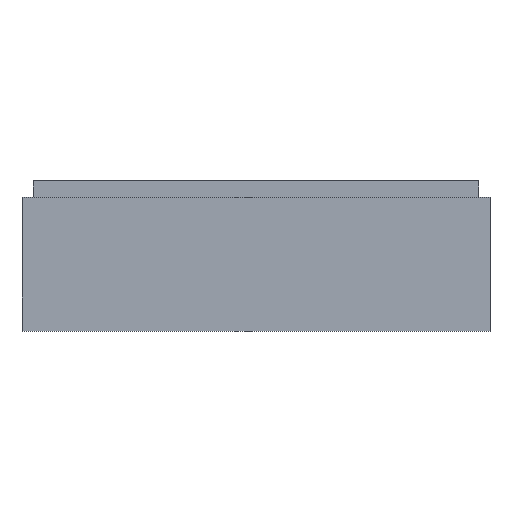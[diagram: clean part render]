
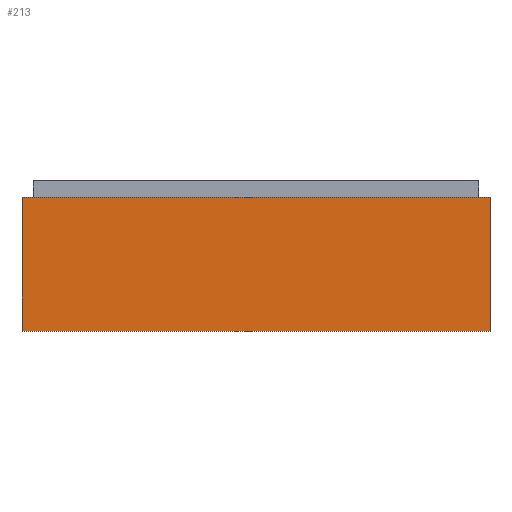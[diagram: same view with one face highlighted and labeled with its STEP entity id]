
A CAD part, top view. The second image highlights one B-rep face of the part: STEP entity #213.
In plain terms, the highlighted planar face has unit normal (0, 0, 1).
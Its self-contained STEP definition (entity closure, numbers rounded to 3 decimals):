
#24 = VERTEX_POINT('',#25);
#25 = CARTESIAN_POINT('',(5.,-47.,11.5));
#32 = PLANE('',#33);
#33 = AXIS2_PLACEMENT_3D('',#34,#35,#36);
#34 = CARTESIAN_POINT('',(5.,-47.,3.));
#35 = DIRECTION('',(1.,0.,-0.));
#36 = DIRECTION('',(0.,0.,1.));
#44 = PLANE('',#45);
#45 = AXIS2_PLACEMENT_3D('',#46,#47,#48);
#46 = CARTESIAN_POINT('',(5.,-47.,3.));
#47 = DIRECTION('',(-0.,1.,0.));
#48 = DIRECTION('',(0.,0.,1.));
#85 = VERTEX_POINT('',#86);
#86 = CARTESIAN_POINT('',(5.,-7.,11.5));
#100 = PLANE('',#101);
#101 = AXIS2_PLACEMENT_3D('',#102,#103,#104);
#102 = CARTESIAN_POINT('',(5.,-7.,3.));
#103 = DIRECTION('',(-0.,1.,0.));
#104 = DIRECTION('',(0.,0.,1.));
#112 = EDGE_CURVE('',#24,#85,#113,.T.);
#113 = SURFACE_CURVE('',#114,(#118,#125),.PCURVE_S1.);
#114 = LINE('',#115,#116);
#115 = CARTESIAN_POINT('',(5.,-47.,11.5));
#116 = VECTOR('',#117,1.);
#117 = DIRECTION('',(-0.,1.,0.));
#118 = PCURVE('',#32,#119);
#119 = DEFINITIONAL_REPRESENTATION('',(#120),#124);
#120 = LINE('',#121,#122);
#121 = CARTESIAN_POINT('',(8.5,0.));
#122 = VECTOR('',#123,1.);
#123 = DIRECTION('',(0.,-1.));
#124 = ( GEOMETRIC_REPRESENTATION_CONTEXT(2) 
PARAMETRIC_REPRESENTATION_CONTEXT() REPRESENTATION_CONTEXT('2D SPACE',''
  ) );
#125 = PCURVE('',#126,#131);
#126 = PLANE('',#127);
#127 = AXIS2_PLACEMENT_3D('',#128,#129,#130);
#128 = CARTESIAN_POINT('',(5.,-47.,11.5));
#129 = DIRECTION('',(0.,0.,1.));
#130 = DIRECTION('',(1.,0.,-0.));
#131 = DEFINITIONAL_REPRESENTATION('',(#132),#136);
#132 = LINE('',#133,#134);
#133 = CARTESIAN_POINT('',(0.,0.));
#134 = VECTOR('',#135,1.);
#135 = DIRECTION('',(0.,1.));
#136 = ( GEOMETRIC_REPRESENTATION_CONTEXT(2) 
PARAMETRIC_REPRESENTATION_CONTEXT() REPRESENTATION_CONTEXT('2D SPACE',''
  ) );
#165 = EDGE_CURVE('',#24,#166,#168,.T.);
#166 = VERTEX_POINT('',#167);
#167 = CARTESIAN_POINT('',(145.,-47.,11.5));
#168 = SURFACE_CURVE('',#169,(#173,#180),.PCURVE_S1.);
#169 = LINE('',#170,#171);
#170 = CARTESIAN_POINT('',(5.,-47.,11.5));
#171 = VECTOR('',#172,1.);
#172 = DIRECTION('',(1.,0.,-0.));
#173 = PCURVE('',#44,#174);
#174 = DEFINITIONAL_REPRESENTATION('',(#175),#179);
#175 = LINE('',#176,#177);
#176 = CARTESIAN_POINT('',(8.5,0.));
#177 = VECTOR('',#178,1.);
#178 = DIRECTION('',(0.,1.));
#179 = ( GEOMETRIC_REPRESENTATION_CONTEXT(2) 
PARAMETRIC_REPRESENTATION_CONTEXT() REPRESENTATION_CONTEXT('2D SPACE',''
  ) );
#180 = PCURVE('',#126,#181);
#181 = DEFINITIONAL_REPRESENTATION('',(#182),#186);
#182 = LINE('',#183,#184);
#183 = CARTESIAN_POINT('',(0.,0.));
#184 = VECTOR('',#185,1.);
#185 = DIRECTION('',(1.,0.));
#186 = ( GEOMETRIC_REPRESENTATION_CONTEXT(2) 
PARAMETRIC_REPRESENTATION_CONTEXT() REPRESENTATION_CONTEXT('2D SPACE',''
  ) );
#202 = PLANE('',#203);
#203 = AXIS2_PLACEMENT_3D('',#204,#205,#206);
#204 = CARTESIAN_POINT('',(145.,-47.,3.));
#205 = DIRECTION('',(1.,0.,-0.));
#206 = DIRECTION('',(0.,0.,1.));
#213 = ADVANCED_FACE('',(#214),#126,.T.);
#214 = FACE_BOUND('',#215,.T.);
#215 = EDGE_LOOP('',(#216,#217,#218,#241));
#216 = ORIENTED_EDGE('',*,*,#112,.F.);
#217 = ORIENTED_EDGE('',*,*,#165,.T.);
#218 = ORIENTED_EDGE('',*,*,#219,.T.);
#219 = EDGE_CURVE('',#166,#220,#222,.T.);
#220 = VERTEX_POINT('',#221);
#221 = CARTESIAN_POINT('',(145.,-7.,11.5));
#222 = SURFACE_CURVE('',#223,(#227,#234),.PCURVE_S1.);
#223 = LINE('',#224,#225);
#224 = CARTESIAN_POINT('',(145.,-47.,11.5));
#225 = VECTOR('',#226,1.);
#226 = DIRECTION('',(-0.,1.,0.));
#227 = PCURVE('',#126,#228);
#228 = DEFINITIONAL_REPRESENTATION('',(#229),#233);
#229 = LINE('',#230,#231);
#230 = CARTESIAN_POINT('',(140.,0.));
#231 = VECTOR('',#232,1.);
#232 = DIRECTION('',(0.,1.));
#233 = ( GEOMETRIC_REPRESENTATION_CONTEXT(2) 
PARAMETRIC_REPRESENTATION_CONTEXT() REPRESENTATION_CONTEXT('2D SPACE',''
  ) );
#234 = PCURVE('',#202,#235);
#235 = DEFINITIONAL_REPRESENTATION('',(#236),#240);
#236 = LINE('',#237,#238);
#237 = CARTESIAN_POINT('',(8.5,0.));
#238 = VECTOR('',#239,1.);
#239 = DIRECTION('',(0.,-1.));
#240 = ( GEOMETRIC_REPRESENTATION_CONTEXT(2) 
PARAMETRIC_REPRESENTATION_CONTEXT() REPRESENTATION_CONTEXT('2D SPACE',''
  ) );
#241 = ORIENTED_EDGE('',*,*,#242,.F.);
#242 = EDGE_CURVE('',#85,#220,#243,.T.);
#243 = SURFACE_CURVE('',#244,(#248,#255),.PCURVE_S1.);
#244 = LINE('',#245,#246);
#245 = CARTESIAN_POINT('',(5.,-7.,11.5));
#246 = VECTOR('',#247,1.);
#247 = DIRECTION('',(1.,0.,-0.));
#248 = PCURVE('',#126,#249);
#249 = DEFINITIONAL_REPRESENTATION('',(#250),#254);
#250 = LINE('',#251,#252);
#251 = CARTESIAN_POINT('',(0.,40.));
#252 = VECTOR('',#253,1.);
#253 = DIRECTION('',(1.,0.));
#254 = ( GEOMETRIC_REPRESENTATION_CONTEXT(2) 
PARAMETRIC_REPRESENTATION_CONTEXT() REPRESENTATION_CONTEXT('2D SPACE',''
  ) );
#255 = PCURVE('',#100,#256);
#256 = DEFINITIONAL_REPRESENTATION('',(#257),#261);
#257 = LINE('',#258,#259);
#258 = CARTESIAN_POINT('',(8.5,0.));
#259 = VECTOR('',#260,1.);
#260 = DIRECTION('',(0.,1.));
#261 = ( GEOMETRIC_REPRESENTATION_CONTEXT(2) 
PARAMETRIC_REPRESENTATION_CONTEXT() REPRESENTATION_CONTEXT('2D SPACE',''
  ) );
